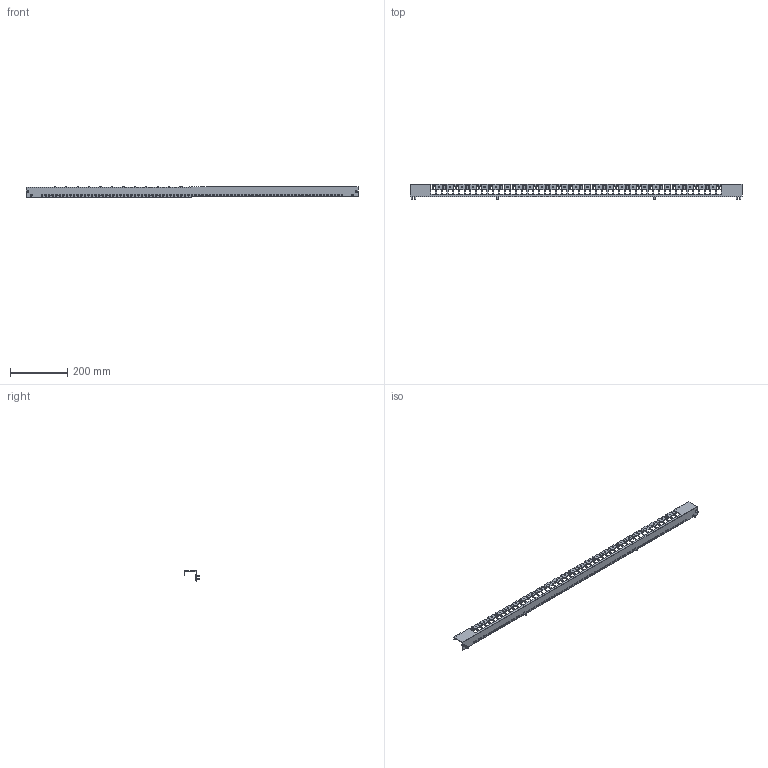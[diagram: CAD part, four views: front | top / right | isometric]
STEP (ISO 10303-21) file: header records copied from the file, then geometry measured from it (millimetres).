
FILE_DESCRIPTION(('Open CASCADE Model'),'2;1');
FILE_NAME('Open CASCADE Shape Model','2025-02-21T17:27:16',('Author'),( 'Open CASCADE'),'Open CASCADE STEP processor 7.8','Open CASCADE 7.8' ,'Unknown');
FILE_SCHEMA(('AUTOMOTIVE_DESIGN { 1 0 10303 214 1 1 1 1 }'));
Length unit declared in the file: millimetre
Products named in the file (3): Compound1; Solid1; Solid2
Assembly tree (7 placements, depth 2):
  Compound1
    Solid1
    Solid2  x6
Bounding box: 1162 x 53.5 x 35 mm (x, y, z)
Volume: 168529.8 mm3; surface area: 189911 mm2
Topology: 7 solids, 7 shells, 883 faces, 2801 edges, 1886 vertices
Faces by surface type: plane 696, cylinder 151, torus 12, cone 12, sphere 6, bspline 6
Full cylindrical faces by diameter (mm): 4.4 x50, 5 x6, 6 x89, 9.5 x6
Entity records: 30036 total; most frequent: CARTESIAN_POINT 5773, ORIENTED_EDGE 5300, DIRECTION 4518, EDGE_CURVE 2650, LINE 2094, VECTOR 2094, VERTEX_POINT 1801, AXIS2_PLACEMENT_3D 1212
